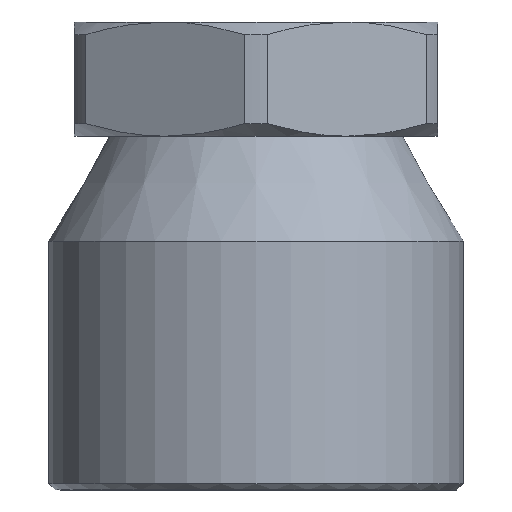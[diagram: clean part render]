
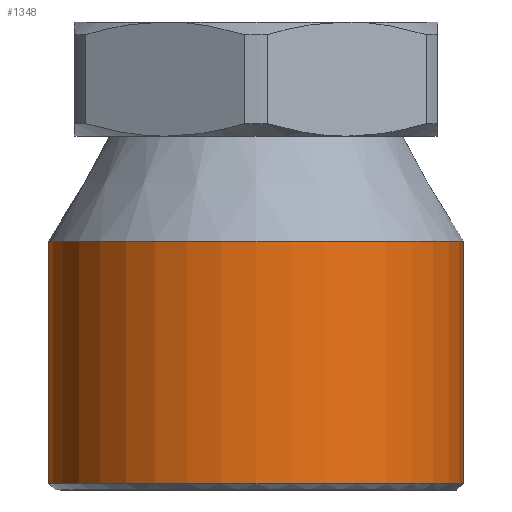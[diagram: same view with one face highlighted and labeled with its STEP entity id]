
A CAD part, front view. The second image highlights one B-rep face of the part: STEP entity #1348.
In plain terms, the highlighted cylindrical face has radius 12.7 mm (diameter 25.4 mm), a partial arc.
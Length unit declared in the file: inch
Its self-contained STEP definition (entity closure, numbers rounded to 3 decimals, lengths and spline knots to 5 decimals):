
#261=FACE_OUTER_BOUND('',#353,.T.);
#353=EDGE_LOOP('',(#1222,#1223,#1224,#1225,#1226));
#405=LINE('',#2448,#453);
#406=LINE('',#2457,#454);
#453=VECTOR('',#1934,0.3937);
#454=VECTOR('',#1935,0.3937);
#555=CIRCLE('',#1541,0.5);
#557=CIRCLE('',#1545,0.5);
#558=CIRCLE('',#1546,0.5);
#678=VERTEX_POINT('',#2444);
#679=VERTEX_POINT('',#2445);
#680=VERTEX_POINT('',#2447);
#682=VERTEX_POINT('',#2453);
#685=VERTEX_POINT('',#2474);
#860=EDGE_CURVE('',#680,#678,#405,.T.);
#863=EDGE_CURVE('',#679,#682,#406,.T.);
#864=EDGE_CURVE('',#679,#678,#555,.T.);
#869=EDGE_CURVE('',#682,#685,#557,.T.);
#870=EDGE_CURVE('',#685,#680,#558,.T.);
#1222=ORIENTED_EDGE('',*,*,#864,.F.);
#1223=ORIENTED_EDGE('',*,*,#863,.T.);
#1224=ORIENTED_EDGE('',*,*,#869,.T.);
#1225=ORIENTED_EDGE('',*,*,#870,.T.);
#1226=ORIENTED_EDGE('',*,*,#860,.T.);
#1276=CYLINDRICAL_SURFACE('',#1544,0.5);
#1348=ADVANCED_FACE('',(#261),#1276,.T.);
#1541=AXIS2_PLACEMENT_3D('',#2459,#1938,#1939);
#1544=AXIS2_PLACEMENT_3D('',#2473,#1945,#1946);
#1545=AXIS2_PLACEMENT_3D('',#2475,#1947,#1948);
#1546=AXIS2_PLACEMENT_3D('',#2476,#1949,#1950);
#1934=DIRECTION('',(0.,0.,-1.));
#1935=DIRECTION('',(0.,0.,1.));
#1938=DIRECTION('center_axis',(0.,0.,
-1.));
#1939=DIRECTION('ref_axis',(0.,-1.,0.));
#1945=DIRECTION('center_axis',(0.,0.,
1.));
#1946=DIRECTION('ref_axis',(0.,-1.,0.));
#1947=DIRECTION('center_axis',(0.,0.,
-1.));
#1948=DIRECTION('ref_axis',(0.,1.,0.));
#1949=DIRECTION('center_axis',(0.,0.,
-1.));
#1950=DIRECTION('ref_axis',(0.,1.,0.));
#2444=CARTESIAN_POINT('',(-0.34699,0.36,-0.425));
#2445=CARTESIAN_POINT('',(0.34699,0.36,-0.425));
#2447=CARTESIAN_POINT('',(-0.34699,0.36,0.15941));
#2448=CARTESIAN_POINT('',(-0.34699,0.36,0.));
#2453=CARTESIAN_POINT('',(0.34699,0.36,0.15941));
#2457=CARTESIAN_POINT('',(0.34699,0.36,0.));
#2459=CARTESIAN_POINT('Origin',(0.,0.,
-0.425));
#2473=CARTESIAN_POINT('Origin',(0.,0.,
0.));
#2474=CARTESIAN_POINT('',(0.,-0.5,0.15941));
#2475=CARTESIAN_POINT('Origin',(0.,0.,
0.15941));
#2476=CARTESIAN_POINT('Origin',(0.,0.,
0.15941));
